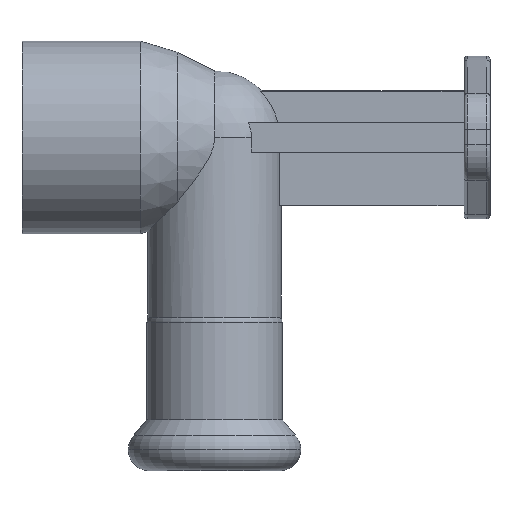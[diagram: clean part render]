
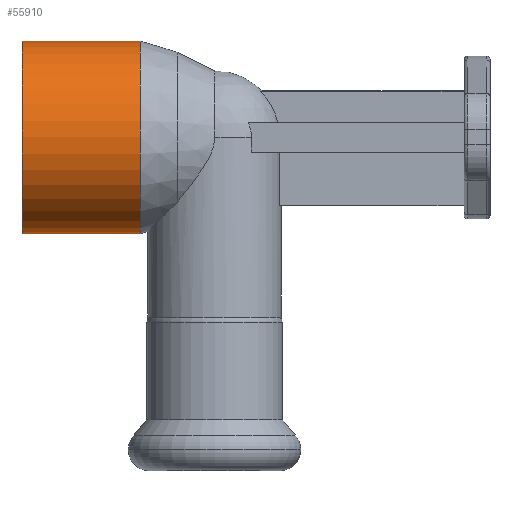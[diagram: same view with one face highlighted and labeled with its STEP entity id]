
A CAD part, top view. The second image highlights one B-rep face of the part: STEP entity #55910.
In plain terms, the highlighted cylindrical face has radius 13 mm (diameter 26 mm), a partial arc.
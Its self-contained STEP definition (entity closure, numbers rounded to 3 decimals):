
#18320=CARTESIAN_POINT('',(-106.193,3.409,
0.));
#18330=VERTEX_POINT('',#18320);
#18480=CARTESIAN_POINT('',(-106.193,29.409,
0.));
#18490=VERTEX_POINT('',#18480);
#18520=CARTESIAN_POINT('',(-106.193,16.409,
0.));
#18530=DIRECTION('',(-1.,0.,0.));
#18540=DIRECTION('',(0.,-1.,0.));
#18550=AXIS2_PLACEMENT_3D('',#18520,#18530,#18540);
#18560=CIRCLE('',#18550,13.);
#18570=EDGE_CURVE('',#18490,#18330,#18560,.T.);
#18620=CARTESIAN_POINT('',(-106.193,16.409,
0.));
#18630=DIRECTION('',(1.,0.,0.));
#18640=DIRECTION('',(0.,-1.,0.));
#18650=AXIS2_PLACEMENT_3D('',#18620,#18630,#18640);
#18660=CYLINDRICAL_SURFACE('',#18650,13.);
#18670=CARTESIAN_POINT('',(-106.193,29.409,
0.));
#18680=DIRECTION('',(1.,0.,0.));
#18690=VECTOR('',#18680,1.);
#18700=LINE('',#18670,#18690);
#18710=CARTESIAN_POINT('',(-122.193,29.409,
0.));
#18720=VERTEX_POINT('',#18710);
#18730=EDGE_CURVE('',#18720,#18490,#18700,.T.);
#18770=CARTESIAN_POINT('',(-106.193,3.409,
0.));
#18780=DIRECTION('',(1.,0.,0.));
#18790=VECTOR('',#18780,1.);
#18800=LINE('',#18770,#18790);
#18810=CARTESIAN_POINT('',(-122.193,3.409,
0.));
#18820=VERTEX_POINT('',#18810);
#18830=EDGE_CURVE('',#18820,#18330,#18800,.T.);
#18850=CARTESIAN_POINT('',(-122.193,16.409,
0.));
#18860=DIRECTION('',(1.,0.,0.));
#18870=DIRECTION('',(0.,-1.,0.));
#18880=AXIS2_PLACEMENT_3D('',#18850,#18860,#18870);
#18890=CIRCLE('',#18880,13.);
#19150=EDGE_CURVE('',#18820,#18720,#18890,.T.);
#55850=ORIENTED_EDGE('',*,*,#18730,.T.);
#55860=ORIENTED_EDGE('',*,*,#19150,.T.);
#55870=ORIENTED_EDGE('',*,*,#18830,.F.);
#55880=ORIENTED_EDGE('',*,*,#18570,.T.);
#55890=EDGE_LOOP('',(#55880,#55870,#55860,#55850));
#55900=FACE_OUTER_BOUND('',#55890,.T.);
#55910=ADVANCED_FACE('',(#55900),#18660,.T.);
